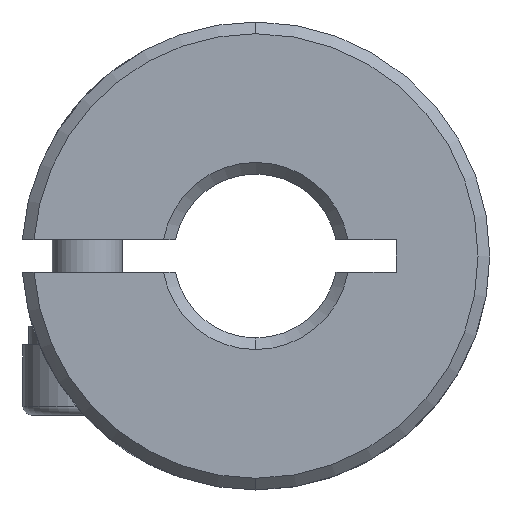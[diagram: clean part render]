
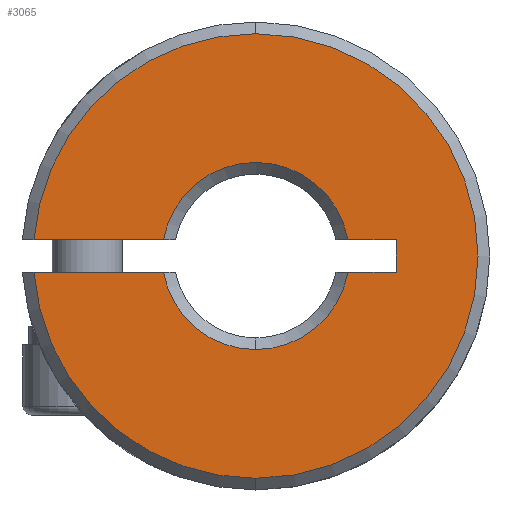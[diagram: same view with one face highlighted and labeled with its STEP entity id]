
A CAD part, front view. The second image highlights one B-rep face of the part: STEP entity #3065.
In plain terms, the highlighted planar face has unit normal (0, -1, 0).
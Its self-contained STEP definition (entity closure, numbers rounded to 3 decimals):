
#16 = CARTESIAN_POINT ( 'NONE',  ( 6., 0.25, -0.7 ) ) ;
#57 = CARTESIAN_POINT ( 'NONE',  ( -50., 0.25, 12. ) ) ;
#70 = PLANE ( 'NONE',  #1742 ) ;
#177 = CARTESIAN_POINT ( 'NONE',  ( 0., 0.25, -4. ) ) ;
#187 = ORIENTED_EDGE ( 'NONE', *, *, #635, .F. ) ;
#282 = DIRECTION ( 'NONE',  ( 0., -1., 0. ) ) ;
#292 = CARTESIAN_POINT ( 'NONE',  ( 0., 0.25, 0. ) ) ;
#303 = DIRECTION ( 'NONE',  ( 1., 0., 0. ) ) ;
#337 = AXIS2_PLACEMENT_3D ( 'NONE', #292, #282, #2251 ) ;
#348 = DIRECTION ( 'NONE',  ( 0., 0., 1. ) ) ;
#384 = AXIS2_PLACEMENT_3D ( 'NONE', #2291, #3356, #3111 ) ;
#435 = DIRECTION ( 'NONE',  ( 0., -1., 0. ) ) ;
#510 = FACE_OUTER_BOUND ( 'NONE', #2932, .T. ) ;
#540 = EDGE_CURVE ( 'NONE', #1194, #1940, #616, .T. ) ;
#543 = VECTOR ( 'NONE', #2407, 1000. ) ;
#544 = VERTEX_POINT ( 'NONE', #991 ) ;
#560 = VERTEX_POINT ( 'NONE', #1558 ) ;
#588 = ORIENTED_EDGE ( 'NONE', *, *, #540, .T. ) ;
#598 = CARTESIAN_POINT ( 'NONE',  ( 0., 0.25, 0. ) ) ;
#616 = CIRCLE ( 'NONE', #1864, 4. ) ;
#635 = EDGE_CURVE ( 'NONE', #544, #1940, #2866, .T. ) ;
#640 = CARTESIAN_POINT ( 'NONE',  ( 0., 0.25, -9.5 ) ) ;
#656 = CARTESIAN_POINT ( 'NONE',  ( -3.938, 0.25, -0.7 ) ) ;
#661 = VECTOR ( 'NONE', #303, 1000. ) ;
#704 = EDGE_CURVE ( 'NONE', #560, #1194, #3034, .T. ) ;
#752 = ORIENTED_EDGE ( 'NONE', *, *, #1396, .F. ) ;
#842 = DIRECTION ( 'NONE',  ( 0., 1., 0. ) ) ;
#886 = LINE ( 'NONE', #1349, #1852 ) ;
#907 = AXIS2_PLACEMENT_3D ( 'NONE', #598, #2803, #1720 ) ;
#911 = VECTOR ( 'NONE', #1869, 1000. ) ;
#946 = CARTESIAN_POINT ( 'NONE',  ( 0., 0.25, 0. ) ) ;
#967 = DIRECTION ( 'NONE',  ( 0., 0., 1. ) ) ;
#991 = CARTESIAN_POINT ( 'NONE',  ( -9.474, 0.25, -0.7 ) ) ;
#1011 = ORIENTED_EDGE ( 'NONE', *, *, #1120, .F. ) ;
#1120 = EDGE_CURVE ( 'NONE', #560, #2842, #3342, .T. ) ;
#1132 = CIRCLE ( 'NONE', #2760, 9.5 ) ;
#1142 = VECTOR ( 'NONE', #3514, 1000. ) ;
#1177 = DIRECTION ( 'NONE',  ( 0., -1., 0. ) ) ;
#1194 = VERTEX_POINT ( 'NONE', #177 ) ;
#1198 = ORIENTED_EDGE ( 'NONE', *, *, #3442, .F. ) ;
#1332 = CARTESIAN_POINT ( 'NONE',  ( 0., 0.25, 0. ) ) ;
#1343 = CARTESIAN_POINT ( 'NONE',  ( -9.474, 0.25, 0.7 ) ) ;
#1349 = CARTESIAN_POINT ( 'NONE',  ( 6., 0.25, 0.7 ) ) ;
#1396 = EDGE_CURVE ( 'NONE', #2744, #3507, #1884, .T. ) ;
#1449 = CARTESIAN_POINT ( 'NONE',  ( 3.938, 0.25, 0.7 ) ) ;
#1482 = ORIENTED_EDGE ( 'NONE', *, *, #3317, .T. ) ;
#1485 = DIRECTION ( 'NONE',  ( 0., 1., 0. ) ) ;
#1496 = ORIENTED_EDGE ( 'NONE', *, *, #2374, .F. ) ;
#1558 = CARTESIAN_POINT ( 'NONE',  ( 3.938, 0.25, -0.7 ) ) ;
#1579 = CARTESIAN_POINT ( 'NONE',  ( 6., 0.25, -0.7 ) ) ;
#1629 = EDGE_CURVE ( 'NONE', #2744, #1945, #3465, .T. ) ;
#1656 = CARTESIAN_POINT ( 'NONE',  ( 0., 0.25, 9.5 ) ) ;
#1694 = AXIS2_PLACEMENT_3D ( 'NONE', #946, #435, #967 ) ;
#1720 = DIRECTION ( 'NONE',  ( 0., 0., 1. ) ) ;
#1742 = AXIS2_PLACEMENT_3D ( 'NONE', #57, #1485, #348 ) ;
#1751 = VERTEX_POINT ( 'NONE', #640 ) ;
#1852 = VECTOR ( 'NONE', #2318, 1000. ) ;
#1864 = AXIS2_PLACEMENT_3D ( 'NONE', #1332, #842, #2793 ) ;
#1868 = CARTESIAN_POINT ( 'NONE',  ( 6., 0.25, 0.7 ) ) ;
#1869 = DIRECTION ( 'NONE',  ( -1., 0., 0. ) ) ;
#1880 = CARTESIAN_POINT ( 'NONE',  ( 6., 0.25, 0.7 ) ) ;
#1884 = LINE ( 'NONE', #3231, #1142 ) ;
#1940 = VERTEX_POINT ( 'NONE', #656 ) ;
#1945 = VERTEX_POINT ( 'NONE', #1449 ) ;
#2026 = DIRECTION ( 'NONE',  ( 0., 0., 1. ) ) ;
#2112 = ORIENTED_EDGE ( 'NONE', *, *, #3163, .T. ) ;
#2251 = DIRECTION ( 'NONE',  ( 0., 0., 1. ) ) ;
#2260 = CARTESIAN_POINT ( 'NONE',  ( -3.938, 0.25, 0.7 ) ) ;
#2283 = CARTESIAN_POINT ( 'NONE',  ( 0., 0.25, 0. ) ) ;
#2291 = CARTESIAN_POINT ( 'NONE',  ( 0., 0.25, 0. ) ) ;
#2318 = DIRECTION ( 'NONE',  ( 0., 0., 1. ) ) ;
#2348 = CARTESIAN_POINT ( 'NONE',  ( 6., 0.25, -0.7 ) ) ;
#2368 = VERTEX_POINT ( 'NONE', #1656 ) ;
#2373 = CIRCLE ( 'NONE', #337, 9.5 ) ;
#2374 = EDGE_CURVE ( 'NONE', #2842, #2619, #886, .T. ) ;
#2407 = DIRECTION ( 'NONE',  ( 1., 0., 0. ) ) ;
#2619 = VERTEX_POINT ( 'NONE', #1868 ) ;
#2722 = ORIENTED_EDGE ( 'NONE', *, *, #1629, .T. ) ;
#2744 = VERTEX_POINT ( 'NONE', #2260 ) ;
#2746 = EDGE_CURVE ( 'NONE', #2368, #3507, #2373, .T. ) ;
#2760 = AXIS2_PLACEMENT_3D ( 'NONE', #2283, #1177, #2026 ) ;
#2779 = CIRCLE ( 'NONE', #1694, 9.5 ) ;
#2793 = DIRECTION ( 'NONE',  ( 0., 0., 1. ) ) ;
#2803 = DIRECTION ( 'NONE',  ( 0., 1., 0. ) ) ;
#2842 = VERTEX_POINT ( 'NONE', #2348 ) ;
#2866 = LINE ( 'NONE', #16, #661 ) ;
#2932 = EDGE_LOOP ( 'NONE', ( #187, #1482, #2112, #3532, #752, #2722, #1198, #1496, #1011, #2964, #588 ) ) ;
#2964 = ORIENTED_EDGE ( 'NONE', *, *, #704, .T. ) ;
#3034 = CIRCLE ( 'NONE', #907, 4. ) ;
#3065 = ADVANCED_FACE ( 'NONE', ( #510 ), #70, .F. ) ;
#3111 = DIRECTION ( 'NONE',  ( 0., 0., 1. ) ) ;
#3163 = EDGE_CURVE ( 'NONE', #1751, #2368, #2779, .T. ) ;
#3231 = CARTESIAN_POINT ( 'NONE',  ( 6., 0.25, 0.7 ) ) ;
#3317 = EDGE_CURVE ( 'NONE', #544, #1751, #1132, .T. ) ;
#3342 = LINE ( 'NONE', #1579, #543 ) ;
#3356 = DIRECTION ( 'NONE',  ( 0., 1., 0. ) ) ;
#3439 = LINE ( 'NONE', #1880, #911 ) ;
#3442 = EDGE_CURVE ( 'NONE', #2619, #1945, #3439, .T. ) ;
#3465 = CIRCLE ( 'NONE', #384, 4. ) ;
#3507 = VERTEX_POINT ( 'NONE', #1343 ) ;
#3514 = DIRECTION ( 'NONE',  ( -1., 0., 0. ) ) ;
#3532 = ORIENTED_EDGE ( 'NONE', *, *, #2746, .T. ) ;
